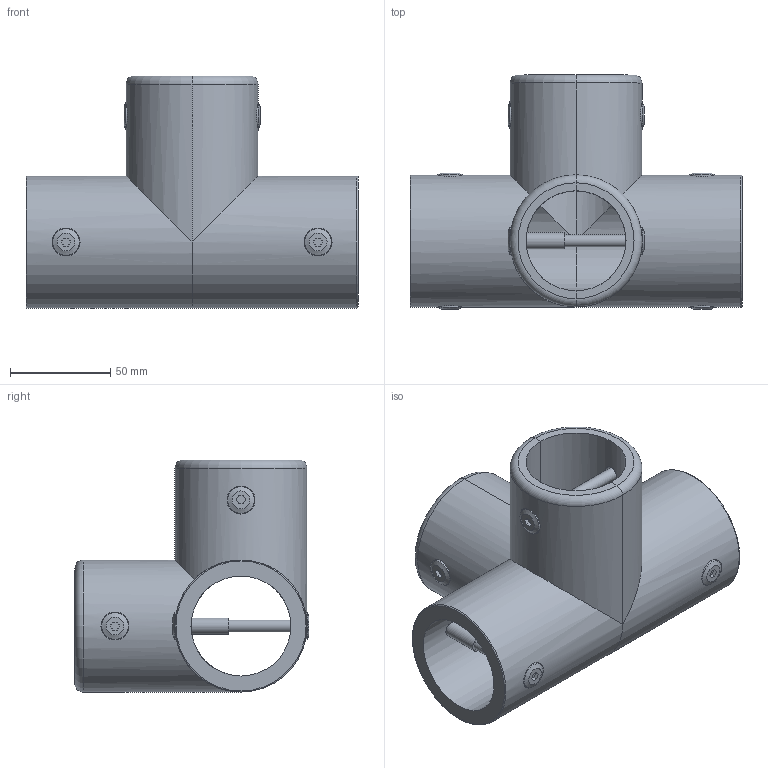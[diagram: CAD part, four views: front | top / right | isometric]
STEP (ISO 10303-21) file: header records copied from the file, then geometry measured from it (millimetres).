
FILE_DESCRIPTION(/* description */ (''),/* implementation_level */ '2;1');
FILE_NAME(/* name */ 'C:\Users\Callum\The Trustee for INKSTONE UNIT TRUST\GRP Australia - Documents\8 Drawings\Handrails\3D Models\Handrail Fittings STEP\MH4-CORNER.stp',/* time_stamp */ '2022-09-15T12:29:36+10:00',/* author */ ('Callum'),/* organization */ (''),/* preprocessor_version */ 'ST-DEVELOPER v18.1',/* originating_system */ 'Autodesk Inventor 2022',/* authorisation */ '');
FILE_SCHEMA (('AUTOMOTIVE_DESIGN { 1 0 10303 214 3 1 1 }'));
Length unit declared in the file: millimetre
Products named in the file (5): MH4-CORNER; MH4-CORNER-PARTA; MHR M6 BARREL NUT & SET SCREW; M6x8 Barrel Nut; M6x50 Soc Head Screw
Assembly tree (7 placements, depth 3):
  MH4-CORNER
    MH4-CORNER-PARTA
    MHR M6 BARREL NUT & SET SCREW  x4
      M6x8 Barrel Nut
      M6x50 Soc Head Screw
Bounding box: 166 x 117 x 116 mm (x, y, z)
Volume: 378435.5 mm3; surface area: 114291.5 mm2
Topology: 10 solids, 10 shells, 164 faces, 364 edges, 242 vertices
Faces by surface type: plane 102, cylinder 40, cone 8, bspline 8, torus 6
Full cylindrical faces by diameter (mm): 5 x4, 6 x4, 8 x12, 14 x8, 50 x2, 66 x2
Entity records: 3232 total; most frequent: CARTESIAN_POINT 1021, DIRECTION 423, ORIENTED_EDGE 392, EDGE_CURVE 196, AXIS2_PLACEMENT_3D 167, VERTEX_POINT 131, EDGE_LOOP 107, LINE 89
